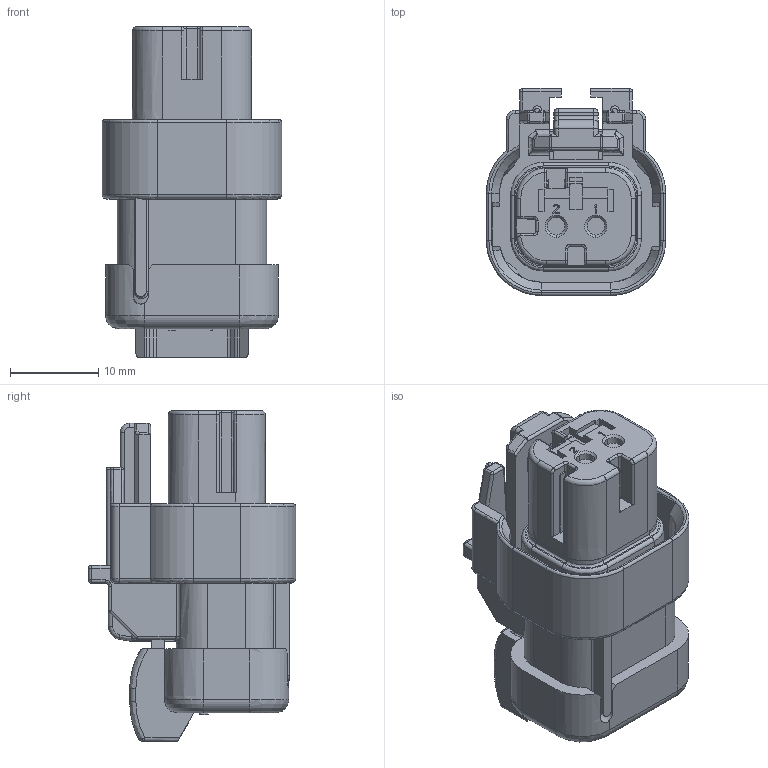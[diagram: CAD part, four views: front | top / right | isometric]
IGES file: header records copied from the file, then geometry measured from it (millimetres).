
Start section:  PTC IGES file: c-776427-2-h-3d.igs
Global section: file name: c-776427-2-h-3d.igs; native system: Creo Parametric by Parametric Technology Corporation; preprocessor: 2013050; author: workeradm; organization: Unknown; units: millimetre
Bounding box: 20.33 x 23.47 x 37.5 mm (x, y, z)
Surface area: 5320.2 mm2 (no closed solid volume)
Topology: 0 solids, 0 shells, 840 faces, 4343 edges, 4342 vertices
Faces by surface type: revolution 429, bspline 411
